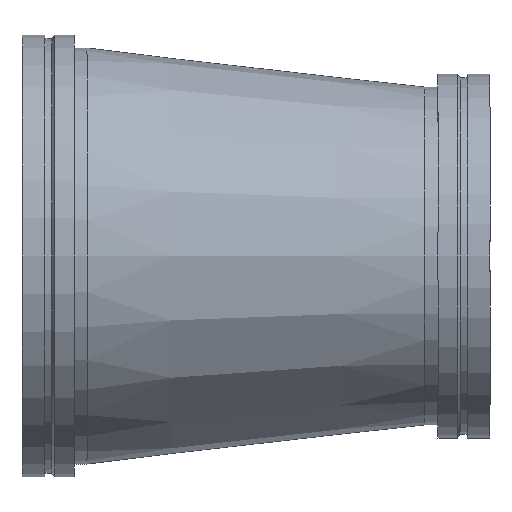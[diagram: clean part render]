
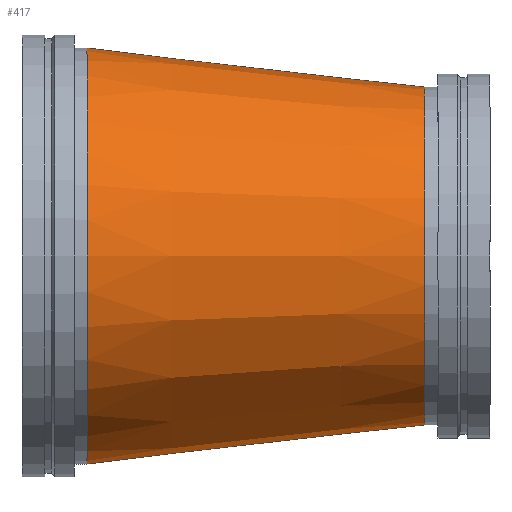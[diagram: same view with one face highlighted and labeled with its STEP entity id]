
A CAD part, front view. The second image highlights one B-rep face of the part: STEP entity #417.
In plain terms, the highlighted conical face has half-angle 6.582 degrees and reference radius 368.3 mm.
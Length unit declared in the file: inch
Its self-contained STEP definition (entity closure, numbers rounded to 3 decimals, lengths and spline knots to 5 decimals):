
#46=CONICAL_SURFACE('',#475,14.5,0.115);
#54=LINE('',#739,#68);
#68=VECTOR('',#587,14.5);
#101=FACE_OUTER_BOUND('',#124,.T.);
#124=EDGE_LOOP('',(#315,#316,#317,#318,#319,#320));
#155=CIRCLE('',#473,16.);
#156=CIRCLE('',#474,16.);
#157=CIRCLE('',#476,13.);
#158=CIRCLE('',#477,13.);
#195=VERTEX_POINT('',#729);
#196=VERTEX_POINT('',#730);
#197=VERTEX_POINT('',#735);
#198=VERTEX_POINT('',#736);
#239=EDGE_CURVE('',#195,#196,#155,.T.);
#240=EDGE_CURVE('',#196,#195,#156,.T.);
#242=EDGE_CURVE('',#197,#198,#157,.T.);
#243=EDGE_CURVE('',#198,#197,#158,.T.);
#244=EDGE_CURVE('',#198,#196,#54,.T.);
#315=ORIENTED_EDGE('',*,*,#242,.F.);
#316=ORIENTED_EDGE('',*,*,#243,.F.);
#317=ORIENTED_EDGE('',*,*,#244,.T.);
#318=ORIENTED_EDGE('',*,*,#240,.T.);
#319=ORIENTED_EDGE('',*,*,#239,.T.);
#320=ORIENTED_EDGE('',*,*,#244,.F.);
#417=ADVANCED_FACE('',(#101),#46,.T.);
#473=AXIS2_PLACEMENT_3D('',#731,#576,#577);
#474=AXIS2_PLACEMENT_3D('',#732,#578,#579);
#475=AXIS2_PLACEMENT_3D('',#734,#581,#582);
#476=AXIS2_PLACEMENT_3D('',#737,#583,#584);
#477=AXIS2_PLACEMENT_3D('',#738,#585,#586);
#576=DIRECTION('center_axis',(1.,0.,0.));
#577=DIRECTION('ref_axis',(0.,0.,-1.));
#578=DIRECTION('center_axis',(1.,0.,0.));
#579=DIRECTION('ref_axis',(0.,0.,-1.));
#581=DIRECTION('center_axis',(-1.,0.,0.));
#582=DIRECTION('ref_axis',(0.,1.,0.));
#583=DIRECTION('center_axis',(1.,0.,0.));
#584=DIRECTION('ref_axis',(0.,0.,-1.));
#585=DIRECTION('center_axis',(1.,0.,0.));
#586=DIRECTION('ref_axis',(0.,0.,-1.));
#587=DIRECTION('',(-0.993,-0.115,0.));
#729=CARTESIAN_POINT('',(5.,16.,0.));
#730=CARTESIAN_POINT('',(5.,-16.,0.));
#731=CARTESIAN_POINT('Origin',(5.,0.,0.));
#732=CARTESIAN_POINT('Origin',(5.,0.,0.));
#734=CARTESIAN_POINT('Origin',(18.,0.,0.));
#735=CARTESIAN_POINT('',(31.,13.,0.));
#736=CARTESIAN_POINT('',(31.,-13.,0.));
#737=CARTESIAN_POINT('Origin',(31.,0.,0.));
#738=CARTESIAN_POINT('Origin',(31.,0.,0.));
#739=CARTESIAN_POINT('',(18.,-14.5,0.));
